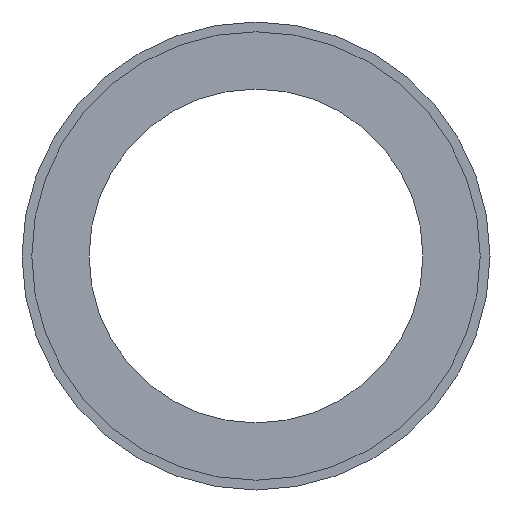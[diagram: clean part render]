
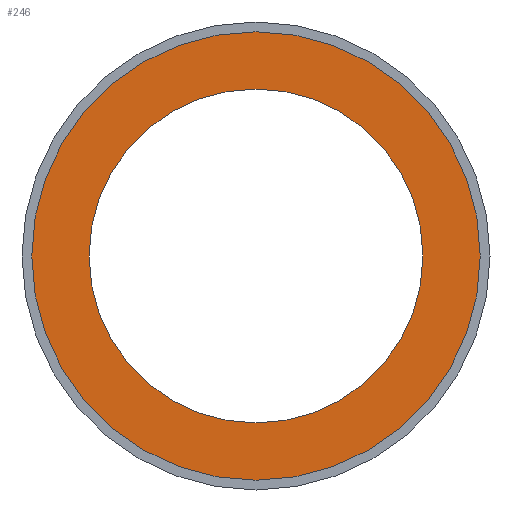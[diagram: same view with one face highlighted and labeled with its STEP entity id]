
A CAD part, front view. The second image highlights one B-rep face of the part: STEP entity #246.
In plain terms, the highlighted planar face has unit normal (0, -1, 0).
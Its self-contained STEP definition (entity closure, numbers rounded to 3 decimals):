
#1 = DIRECTION ( 'NONE',  ( 0., -1., 0. ) ) ;
#3 = CIRCLE ( 'NONE', #21, 17.125 ) ;
#10 = DIRECTION ( 'NONE',  ( 0., 0., -1. ) ) ;
#16 = DIRECTION ( 'NONE',  ( 0., 0., -1. ) ) ;
#21 = AXIS2_PLACEMENT_3D ( 'NONE', #104, #153, #10 ) ;
#24 = ORIENTED_EDGE ( 'NONE', *, *, #241, .F. ) ;
#45 = CIRCLE ( 'NONE', #254, 17.125 ) ;
#47 = ORIENTED_EDGE ( 'NONE', *, *, #49, .F. ) ;
#49 = EDGE_CURVE ( 'NONE', #137, #307, #45, .T. ) ;
#50 = VERTEX_POINT ( 'NONE', #291 ) ;
#62 = DIRECTION ( 'NONE',  ( 0., 0., -1. ) ) ;
#69 = ORIENTED_EDGE ( 'NONE', *, *, #70, .T. ) ;
#70 = EDGE_CURVE ( 'NONE', #50, #252, #336, .T. ) ;
#76 = CARTESIAN_POINT ( 'NONE',  ( 0., 2.25, -17.125 ) ) ;
#77 = CARTESIAN_POINT ( 'NONE',  ( 0., 2.25, 0. ) ) ;
#95 = CARTESIAN_POINT ( 'NONE',  ( 0., 2.25, 0. ) ) ;
#104 = CARTESIAN_POINT ( 'NONE',  ( 0., 2.25, 0. ) ) ;
#115 = AXIS2_PLACEMENT_3D ( 'NONE', #213, #363, #16 ) ;
#118 = ORIENTED_EDGE ( 'NONE', *, *, #283, .T. ) ;
#122 = CIRCLE ( 'NONE', #156, 23. ) ;
#137 = VERTEX_POINT ( 'NONE', #76 ) ;
#140 = CARTESIAN_POINT ( 'NONE',  ( 0., 2.25, 23. ) ) ;
#153 = DIRECTION ( 'NONE',  ( 0., -1., 0. ) ) ;
#156 = AXIS2_PLACEMENT_3D ( 'NONE', #77, #306, #160 ) ;
#160 = DIRECTION ( 'NONE',  ( 0., 0., -1. ) ) ;
#176 = AXIS2_PLACEMENT_3D ( 'NONE', #95, #273, #268 ) ;
#186 = PLANE ( 'NONE',  #115 ) ;
#208 = FACE_OUTER_BOUND ( 'NONE', #277, .T. ) ;
#213 = CARTESIAN_POINT ( 'NONE',  ( 17.125, 2.25, 0. ) ) ;
#217 = CARTESIAN_POINT ( 'NONE',  ( 0., 2.25, 17.125 ) ) ;
#241 = EDGE_CURVE ( 'NONE', #307, #137, #3, .T. ) ;
#246 = ADVANCED_FACE ( 'NONE', ( #208, #331 ), #186, .T. ) ;
#252 = VERTEX_POINT ( 'NONE', #140 ) ;
#254 = AXIS2_PLACEMENT_3D ( 'NONE', #322, #1, #62 ) ;
#268 = DIRECTION ( 'NONE',  ( 0., 0., -1. ) ) ;
#273 = DIRECTION ( 'NONE',  ( 0., -1., 0. ) ) ;
#277 = EDGE_LOOP ( 'NONE', ( #69, #118 ) ) ;
#283 = EDGE_CURVE ( 'NONE', #252, #50, #122, .T. ) ;
#290 = EDGE_LOOP ( 'NONE', ( #47, #24 ) ) ;
#291 = CARTESIAN_POINT ( 'NONE',  ( 0., 2.25, -23. ) ) ;
#306 = DIRECTION ( 'NONE',  ( 0., -1., 0. ) ) ;
#307 = VERTEX_POINT ( 'NONE', #217 ) ;
#322 = CARTESIAN_POINT ( 'NONE',  ( 0., 2.25, 0. ) ) ;
#331 = FACE_BOUND ( 'NONE', #290, .T. ) ;
#336 = CIRCLE ( 'NONE', #176, 23. ) ;
#363 = DIRECTION ( 'NONE',  ( 0., -1., 0. ) ) ;
